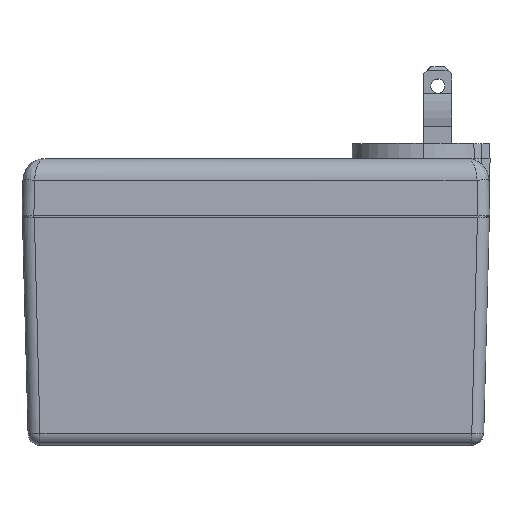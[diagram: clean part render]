
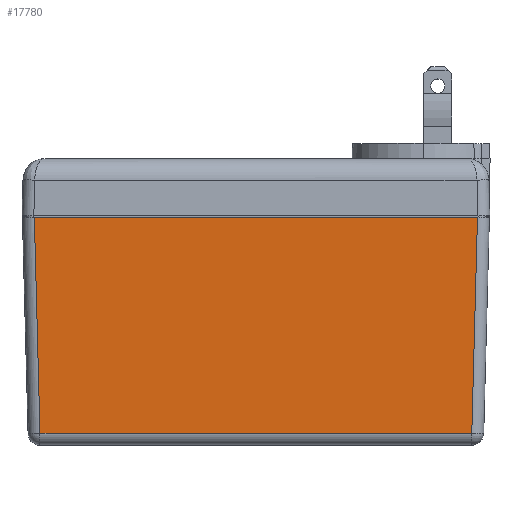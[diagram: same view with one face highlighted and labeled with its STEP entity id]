
A CAD part, top view. The second image highlights one B-rep face of the part: STEP entity #17780.
In plain terms, the highlighted planar face has unit normal (0, -0.026, 1).
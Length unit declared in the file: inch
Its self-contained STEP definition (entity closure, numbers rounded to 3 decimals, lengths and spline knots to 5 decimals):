
#3647 = DIRECTION ( 'NONE',  ( 0., -1., -0.026 ) ) ;
#3649 = DIRECTION ( 'NONE',  ( 0., -0.026, 1. ) ) ;
#3655 = PLANE ( 'NONE',  #10512 ) ;
#3656 = CARTESIAN_POINT ( 'NONE',  ( -2.0545, 0., 1.116 ) ) ;
#4193 = FACE_OUTER_BOUND ( 'NONE', #15306, .T. ) ;
#7432 = VECTOR ( 'NONE', #11006, 39.37008 ) ;
#7433 = LINE ( 'NONE', #11008, #7432 ) ;
#7434 = VECTOR ( 'NONE', #11011, 39.37008 ) ;
#7435 = LINE ( 'NONE', #11015, #7434 ) ;
#7436 = VECTOR ( 'NONE', #11019, 39.37008 ) ;
#7437 = LINE ( 'NONE', #11020, #7436 ) ;
#7461 = LINE ( 'NONE', #11127, #7464 ) ;
#7464 = VECTOR ( 'NONE', #11112, 39.37008 ) ;
#7980 = VERTEX_POINT ( 'NONE', #12594 ) ;
#7984 = VERTEX_POINT ( 'NONE', #12590 ) ;
#7985 = VERTEX_POINT ( 'NONE', #12589 ) ;
#7995 = VERTEX_POINT ( 'NONE', #12579 ) ;
#10512 = AXIS2_PLACEMENT_3D ( 'NONE', #3656, #3649, #3647 ) ;
#11006 = DIRECTION ( 'NONE',  ( 1., 0., 0. ) ) ;
#11008 = CARTESIAN_POINT ( 'NONE',  ( -2.0545, 0., 1.116 ) ) ;
#11011 = DIRECTION ( 'NONE',  ( 0.026, -0.999, -0.026 ) ) ;
#11015 = CARTESIAN_POINT ( 'NONE',  ( -1.94961, 0.00274, 1.11607 ) ) ;
#11019 = DIRECTION ( 'NONE',  ( 0.026, 0.999, 0.026 ) ) ;
#11020 = CARTESIAN_POINT ( 'NONE',  ( 1.94679, -0.10471, 1.11326 ) ) ;
#11112 = DIRECTION ( 'NONE',  ( 1., 0., 0. ) ) ;
#11127 = CARTESIAN_POINT ( 'NONE',  ( -2.0545, -1.90275, 1.06617 ) ) ;
#12579 = CARTESIAN_POINT ( 'NONE',  ( -1.94954, 0., 1.116 ) ) ;
#12589 = CARTESIAN_POINT ( 'NONE',  ( -1.89971, -1.90275, 1.06617 ) ) ;
#12590 = CARTESIAN_POINT ( 'NONE',  ( 1.94954, 0., 1.116 ) ) ;
#12594 = CARTESIAN_POINT ( 'NONE',  ( 1.89971, -1.90275, 1.06617 ) ) ;
#15306 = EDGE_LOOP ( 'NONE', ( #15391, #15392, #15393, #15382 ) ) ;
#15382 = ORIENTED_EDGE ( 'NONE', *, *, #16691, .T. ) ;
#15391 = ORIENTED_EDGE ( 'NONE', *, *, #16676, .T. ) ;
#15392 = ORIENTED_EDGE ( 'NONE', *, *, #16690, .T. ) ;
#15393 = ORIENTED_EDGE ( 'NONE', *, *, #16692, .F. ) ;
#16676 = EDGE_CURVE ( 'NONE', #7985, #7980, #7461, .T. ) ;
#16690 = EDGE_CURVE ( 'NONE', #7980, #7984, #7437, .T. ) ;
#16691 = EDGE_CURVE ( 'NONE', #7995, #7985, #7435, .T. ) ;
#16692 = EDGE_CURVE ( 'NONE', #7995, #7984, #7433, .T. ) ;
#17780 = ADVANCED_FACE ( 'NONE', ( #4193 ), #3655, .T. ) ;
